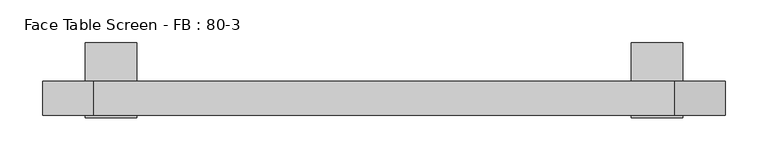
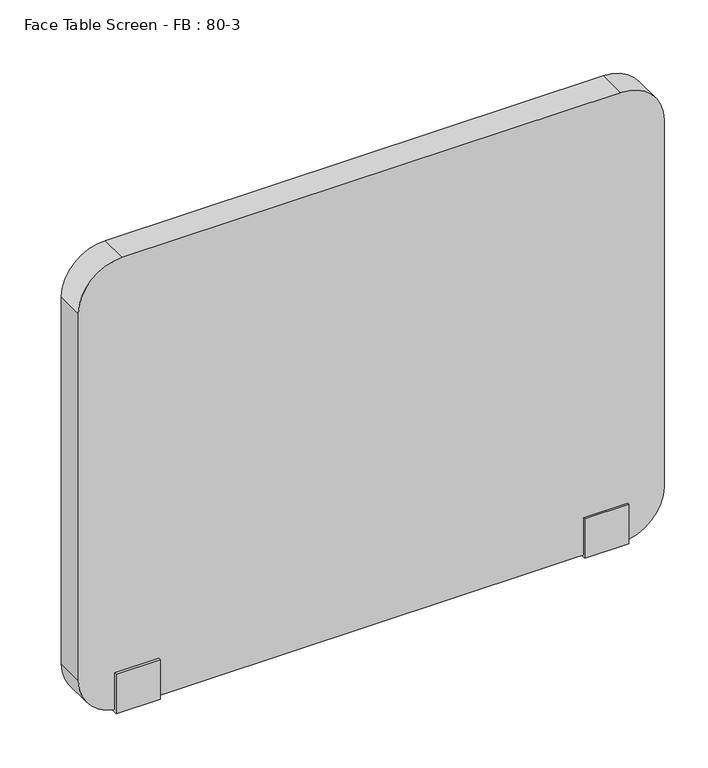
"""IFC4 building model written with IfcOpenShell, lengths in millimetres: furniture geometry, Face Table Screen - FB : 80-3."""

from ifc_helpers import new_model, si_unit, point, frame, frame_2d, origin, place, context, project, spatial, polyline, circle_curve, trimmed, segment, composite_curve, outline, extrude, source, transform, mapped, element, save


def face_table_screen_fb_80_3_5fd84f41(model_context):
    return source(origin(), model_context, "Body", "SweptSolid", [
        extrude(outline(polyline([(-42.9999947, -256.0), (-42.9999997, -199.0433898), (-40.0, -199.0433898), (-40.0, -253.0), (0.0, -253.0), (0.0, -22.0), (45.0, -22.0), (45.0, -25.0433898), (3.0000062, -25.0433898), (2.9999947, -256.0), (-42.9999947, -256.0)])), frame((309.9863751, 0.0, 0.0), z_axis=(1.0, 0.0, 0.0), x_axis=(0.0, 1.0, 0.0)), (0.0, 0.0, 1.0), 60.0),
        extrude(outline(polyline([(-42.9999947, -256.0), (-42.9999997, -199.0433898), (-40.0, -199.0433898), (-40.0, -253.0), (0.0, -253.0), (0.0, -22.0), (45.0, -22.0), (45.0, -25.0433898), (3.0000062, -25.0433898), (2.9999947, -256.0), (-42.9999947, -256.0)])), frame((-330.0136249, 0.0, 0.0), z_axis=(1.0, 0.0, 0.0), x_axis=(0.0, 1.0, 0.0)), (0.0, 0.0, 1.0), 60.0),
        extrude(outline(composite_curve([segment(polyline([(397.0, 359.9863751), (397.0, -320.0136249)]), True, "CONTINUOUS"), segment(trimmed(circle_curve(frame_2d((337.0, -320.0136249)), 60.0), [point((397.0, -320.0136249))], [point((337.0, -380.0136249))], False, "CARTESIAN"), True, "CONTINUOUS"), segment(polyline([(337.0, -380.0136249), (-193.0, -380.0136249)]), True, "CONTINUOUS"), segment(trimmed(circle_curve(frame_2d((-193.0, -320.0136249)), 60.0), [point((-193.0, -380.0136249))], [point((-253.0, -320.0136249))], False, "CARTESIAN"), True, "CONTINUOUS"), segment(polyline([(-253.0, -320.0136249), (-253.0, 359.9863751)]), True, "CONTINUOUS"), segment(trimmed(circle_curve(frame_2d((-193.0, 359.9863751)), 60.0), [point((-253.0, 359.9863751))], [point((-193.0, 419.9863751))], False, "CARTESIAN"), True, "CONTINUOUS"), segment(polyline([(-193.0, 419.9863751), (337.0, 419.9863751)]), True, "CONTINUOUS"), segment(trimmed(circle_curve(frame_2d((337.0, 359.9863751)), 60.0), [point((337.0, 419.9863751))], [point((397.0, 359.9863751))], False, "CARTESIAN"), True, "CONTINUOUS")], self_intersect=False)), frame((0.0, -40.0, 0.0), z_axis=(0.0, 1.0, 0.0), x_axis=(0.0, 0.0, 1.0)), (0.0, 0.0, 1.0), 40.0),
    ])


if __name__ == "__main__":
    model = new_model("IFC4")
    model_context = context("Model", 3, world=origin())
    ifc_project = project(units=[si_unit("LENGTHUNIT", "METRE", prefix="MILLI")], contexts=[model_context])
    site = spatial("IfcSite", under=ifc_project)
    building = spatial("IfcBuilding", under=site)
    placement = place(None, origin())
    face_table_screen_fb_80_3_shape = face_table_screen_fb_80_3_5fd84f41(model_context)
    element("IfcFurniture", 1, ObjectType="Face Table Screen - FB : 80-3", at=placement, inside=building, context=model_context, shape_type="MappedRepresentation", body=[
        mapped(face_table_screen_fb_80_3_shape, transform((0.0, 0.0, 0.0), x_axis=(1.0, 0.0, 0.0), y_axis=(0.0, 1.0, 0.0), z_axis=(0.0, 0.0, 1.0))),
    ])
    save(model, "model.ifc")
